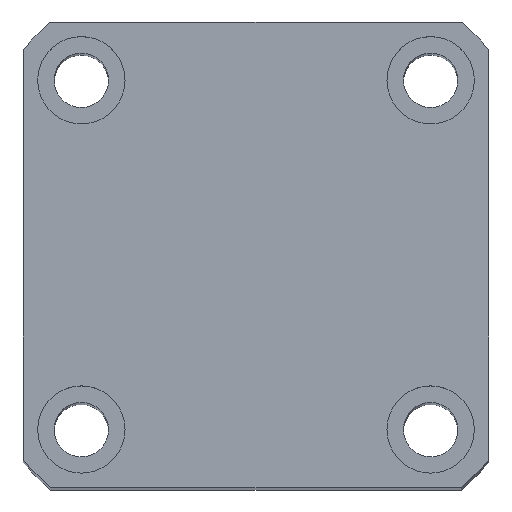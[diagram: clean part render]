
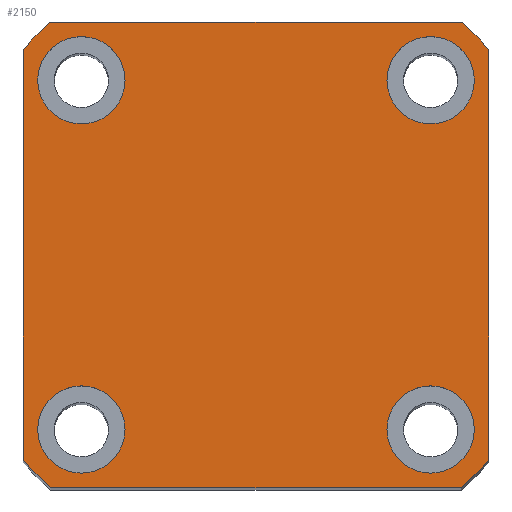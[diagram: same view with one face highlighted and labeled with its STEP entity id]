
A CAD part, top view. The second image highlights one B-rep face of the part: STEP entity #2150.
In plain terms, the highlighted planar face has unit normal (0, 0, 1) as drawn and (1, 0, 0) by its records, which use the part's own axes.
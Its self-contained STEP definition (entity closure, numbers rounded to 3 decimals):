
#141 = FACE_BOUND ( 'NONE', #7603, .T. ) ;
#166 = CARTESIAN_POINT ( 'NONE',  ( 135., -18., 22.5 ) ) ;
#235 = CARTESIAN_POINT ( 'NONE',  ( 135., -18., -18. ) ) ;
#321 = FACE_BOUND ( 'NONE', #2095, .T. ) ;
#368 = DIRECTION ( 'NONE',  ( 0., 0., -1. ) ) ;
#455 = EDGE_LOOP ( 'NONE', ( #1502, #932 ) ) ;
#492 = DIRECTION ( 'NONE',  ( 0., 0., -1. ) ) ;
#498 = DIRECTION ( 'NONE',  ( 1., 0., 0. ) ) ;
#501 = DIRECTION ( 'NONE',  ( 0., 0., -1. ) ) ;
#503 = CARTESIAN_POINT ( 'NONE',  ( 135., 0., 0. ) ) ;
#525 = ORIENTED_EDGE ( 'NONE', *, *, #6805, .F. ) ;
#533 = PLANE ( 'NONE',  #4924 ) ;
#605 = AXIS2_PLACEMENT_3D ( 'NONE', #2058, #2053, #2040 ) ;
#652 = VERTEX_POINT ( 'NONE', #166 ) ;
#658 = VERTEX_POINT ( 'NONE', #6543 ) ;
#694 = VERTEX_POINT ( 'NONE', #4660 ) ;
#704 = CIRCLE ( 'NONE', #6453, 4.5 ) ;
#738 = ORIENTED_EDGE ( 'NONE', *, *, #5721, .F. ) ;
#805 = CARTESIAN_POINT ( 'NONE',  ( 135., -21.166, -24. ) ) ;
#809 = ORIENTED_EDGE ( 'NONE', *, *, #4125, .T. ) ;
#839 = EDGE_CURVE ( 'NONE', #5489, #3019, #1200, .T. ) ;
#853 = DIRECTION ( 'NONE',  ( 0., 0., -1. ) ) ;
#886 = CARTESIAN_POINT ( 'NONE',  ( 135., 18., 18. ) ) ;
#931 = CARTESIAN_POINT ( 'NONE',  ( 135., -24., -21.166 ) ) ;
#932 = ORIENTED_EDGE ( 'NONE', *, *, #2497, .F. ) ;
#948 = EDGE_CURVE ( 'NONE', #2676, #694, #3311, .T. ) ;
#999 = CIRCLE ( 'NONE', #605, 4.5 ) ;
#1005 = CARTESIAN_POINT ( 'NONE',  ( 135., 24., 24. ) ) ;
#1048 = VERTEX_POINT ( 'NONE', #6081 ) ;
#1063 = CARTESIAN_POINT ( 'NONE',  ( 135., 18., 22.5 ) ) ;
#1106 = DIRECTION ( 'NONE',  ( 0., 0., -1. ) ) ;
#1132 = DIRECTION ( 'NONE',  ( 1., 0., 0. ) ) ;
#1155 = CARTESIAN_POINT ( 'NONE',  ( 135., 0., 0. ) ) ;
#1200 = LINE ( 'NONE', #6390, #4509 ) ;
#1407 = ORIENTED_EDGE ( 'NONE', *, *, #5332, .F. ) ;
#1433 = DIRECTION ( 'NONE',  ( 1., 0., 0. ) ) ;
#1462 = CIRCLE ( 'NONE', #4078, 4.5 ) ;
#1502 = ORIENTED_EDGE ( 'NONE', *, *, #7721, .F. ) ;
#1504 = DIRECTION ( 'NONE',  ( 0., 0., -1. ) ) ;
#1555 = LINE ( 'NONE', #1005, #7917 ) ;
#1669 = ORIENTED_EDGE ( 'NONE', *, *, #6776, .T. ) ;
#1773 = ORIENTED_EDGE ( 'NONE', *, *, #5281, .T. ) ;
#1963 = FACE_BOUND ( 'NONE', #455, .T. ) ;
#2040 = DIRECTION ( 'NONE',  ( 0., 0., -1. ) ) ;
#2053 = DIRECTION ( 'NONE',  ( 1., 0., 0. ) ) ;
#2058 = CARTESIAN_POINT ( 'NONE',  ( 135., -18., -18. ) ) ;
#2090 = ORIENTED_EDGE ( 'NONE', *, *, #4512, .T. ) ;
#2093 = CARTESIAN_POINT ( 'NONE',  ( 135., 24., -21.166 ) ) ;
#2095 = EDGE_LOOP ( 'NONE', ( #5826, #2860 ) ) ;
#2150 = ADVANCED_FACE ( 'NONE', ( #1963, #141, #3813, #321, #6513 ), #533, .T. ) ;
#2222 = CARTESIAN_POINT ( 'NONE',  ( 135., -18., -22.5 ) ) ;
#2262 = CARTESIAN_POINT ( 'NONE',  ( 135., 0., 0. ) ) ;
#2285 = VERTEX_POINT ( 'NONE', #805 ) ;
#2386 = AXIS2_PLACEMENT_3D ( 'NONE', #886, #5233, #1504 ) ;
#2497 = EDGE_CURVE ( 'NONE', #4791, #5658, #999, .T. ) ;
#2598 = DIRECTION ( 'NONE',  ( 1., 0., 0. ) ) ;
#2666 = AXIS2_PLACEMENT_3D ( 'NONE', #2877, #7200, #3505 ) ;
#2676 = VERTEX_POINT ( 'NONE', #5200 ) ;
#2789 = DIRECTION ( 'NONE',  ( 1., 0., 0. ) ) ;
#2860 = ORIENTED_EDGE ( 'NONE', *, *, #6238, .F. ) ;
#2877 = CARTESIAN_POINT ( 'NONE',  ( 135., -18., 18. ) ) ;
#2886 = DIRECTION ( 'NONE',  ( 0., 0., -1. ) ) ;
#3001 = VERTEX_POINT ( 'NONE', #1063 ) ;
#3019 = VERTEX_POINT ( 'NONE', #5987 ) ;
#3126 = CARTESIAN_POINT ( 'NONE',  ( 135., -18., -13.5 ) ) ;
#3311 = CIRCLE ( 'NONE', #4777, 32. ) ;
#3374 = AXIS2_PLACEMENT_3D ( 'NONE', #7898, #4228, #501 ) ;
#3435 = AXIS2_PLACEMENT_3D ( 'NONE', #6505, #2789, #7119 ) ;
#3448 = EDGE_LOOP ( 'NONE', ( #4459, #2090, #3615, #809, #1669, #7111, #4058, #1773 ) ) ;
#3505 = DIRECTION ( 'NONE',  ( 0., 0., -1. ) ) ;
#3615 = ORIENTED_EDGE ( 'NONE', *, *, #839, .T. ) ;
#3813 = FACE_BOUND ( 'NONE', #4815, .T. ) ;
#3896 = CIRCLE ( 'NONE', #2386, 4.5 ) ;
#4058 = ORIENTED_EDGE ( 'NONE', *, *, #6016, .T. ) ;
#4078 = AXIS2_PLACEMENT_3D ( 'NONE', #7772, #4085, #368 ) ;
#4085 = DIRECTION ( 'NONE',  ( 1., 0., 0. ) ) ;
#4123 = CARTESIAN_POINT ( 'NONE',  ( 135., 24., -24. ) ) ;
#4125 = EDGE_CURVE ( 'NONE', #3019, #1048, #4770, .T. ) ;
#4228 = DIRECTION ( 'NONE',  ( 1., 0., 0. ) ) ;
#4459 = ORIENTED_EDGE ( 'NONE', *, *, #6825, .T. ) ;
#4487 = DIRECTION ( 'NONE',  ( 1., 0., 0. ) ) ;
#4509 = VECTOR ( 'NONE', #6341, 1000. ) ;
#4512 = EDGE_CURVE ( 'NONE', #6094, #5489, #5077, .T. ) ;
#4557 = DIRECTION ( 'NONE',  ( 1., 0., 0. ) ) ;
#4558 = DIRECTION ( 'NONE',  ( 0., 0., -1. ) ) ;
#4596 = CARTESIAN_POINT ( 'NONE',  ( 135., 21.166, -24. ) ) ;
#4658 = VECTOR ( 'NONE', #5958, 1000. ) ;
#4660 = CARTESIAN_POINT ( 'NONE',  ( 135., -24., 21.166 ) ) ;
#4731 = DIRECTION ( 'NONE',  ( 0., -1., 0. ) ) ;
#4770 = CIRCLE ( 'NONE', #6906, 32. ) ;
#4777 = AXIS2_PLACEMENT_3D ( 'NONE', #6564, #4487, #4558 ) ;
#4791 = VERTEX_POINT ( 'NONE', #3126 ) ;
#4794 = AXIS2_PLACEMENT_3D ( 'NONE', #6293, #2598, #6919 ) ;
#4815 = EDGE_LOOP ( 'NONE', ( #6538, #1407 ) ) ;
#4924 = AXIS2_PLACEMENT_3D ( 'NONE', #503, #498, #492 ) ;
#4942 = CARTESIAN_POINT ( 'NONE',  ( 135., 18., -13.5 ) ) ;
#4964 = AXIS2_PLACEMENT_3D ( 'NONE', #235, #4557, #853 ) ;
#5077 = CIRCLE ( 'NONE', #6344, 32. ) ;
#5155 = CARTESIAN_POINT ( 'NONE',  ( 135., 18., -18. ) ) ;
#5200 = CARTESIAN_POINT ( 'NONE',  ( 135., -21.166, 24. ) ) ;
#5233 = DIRECTION ( 'NONE',  ( 1., 0., 0. ) ) ;
#5281 = EDGE_CURVE ( 'NONE', #6590, #2285, #5813, .T. ) ;
#5316 = CARTESIAN_POINT ( 'NONE',  ( 135., 18., -22.5 ) ) ;
#5332 = EDGE_CURVE ( 'NONE', #7676, #7856, #704, .T. ) ;
#5344 = LINE ( 'NONE', #7604, #6775 ) ;
#5361 = CARTESIAN_POINT ( 'NONE',  ( 135., -18., 13.5 ) ) ;
#5489 = VERTEX_POINT ( 'NONE', #2093 ) ;
#5658 = VERTEX_POINT ( 'NONE', #2222 ) ;
#5721 = EDGE_CURVE ( 'NONE', #6791, #652, #6091, .T. ) ;
#5754 = DIRECTION ( 'NONE',  ( 0., 0., -1. ) ) ;
#5757 = DIRECTION ( 'NONE',  ( 0., 0., -1. ) ) ;
#5813 = CIRCLE ( 'NONE', #4794, 32. ) ;
#5826 = ORIENTED_EDGE ( 'NONE', *, *, #6052, .F. ) ;
#5958 = DIRECTION ( 'NONE',  ( 0., 1., 0. ) ) ;
#5987 = CARTESIAN_POINT ( 'NONE',  ( 135., 24., 21.166 ) ) ;
#6016 = EDGE_CURVE ( 'NONE', #694, #6590, #5344, .T. ) ;
#6052 = EDGE_CURVE ( 'NONE', #658, #3001, #3896, .T. ) ;
#6081 = CARTESIAN_POINT ( 'NONE',  ( 135., 21.166, 24. ) ) ;
#6091 = CIRCLE ( 'NONE', #3374, 4.5 ) ;
#6094 = VERTEX_POINT ( 'NONE', #4596 ) ;
#6238 = EDGE_CURVE ( 'NONE', #3001, #658, #1462, .T. ) ;
#6293 = CARTESIAN_POINT ( 'NONE',  ( 135., 0., 0. ) ) ;
#6296 = LINE ( 'NONE', #4123, #4658 ) ;
#6341 = DIRECTION ( 'NONE',  ( 0., 0., 1. ) ) ;
#6344 = AXIS2_PLACEMENT_3D ( 'NONE', #2262, #6610, #2886 ) ;
#6390 = CARTESIAN_POINT ( 'NONE',  ( 135., 24., 24. ) ) ;
#6453 = AXIS2_PLACEMENT_3D ( 'NONE', #5155, #1433, #5757 ) ;
#6494 = CIRCLE ( 'NONE', #2666, 4.5 ) ;
#6505 = CARTESIAN_POINT ( 'NONE',  ( 135., 18., -18. ) ) ;
#6513 = FACE_OUTER_BOUND ( 'NONE', #3448, .T. ) ;
#6538 = ORIENTED_EDGE ( 'NONE', *, *, #7449, .F. ) ;
#6543 = CARTESIAN_POINT ( 'NONE',  ( 135., 18., 13.5 ) ) ;
#6564 = CARTESIAN_POINT ( 'NONE',  ( 135., 0., 0. ) ) ;
#6590 = VERTEX_POINT ( 'NONE', #931 ) ;
#6610 = DIRECTION ( 'NONE',  ( 1., 0., 0. ) ) ;
#6775 = VECTOR ( 'NONE', #5754, 1000. ) ;
#6776 = EDGE_CURVE ( 'NONE', #1048, #2676, #1555, .T. ) ;
#6791 = VERTEX_POINT ( 'NONE', #5361 ) ;
#6805 = EDGE_CURVE ( 'NONE', #652, #6791, #6494, .T. ) ;
#6825 = EDGE_CURVE ( 'NONE', #2285, #6094, #6296, .T. ) ;
#6906 = AXIS2_PLACEMENT_3D ( 'NONE', #1155, #1132, #1106 ) ;
#6919 = DIRECTION ( 'NONE',  ( 0., 0., -1. ) ) ;
#7111 = ORIENTED_EDGE ( 'NONE', *, *, #948, .T. ) ;
#7119 = DIRECTION ( 'NONE',  ( 0., 0., -1. ) ) ;
#7200 = DIRECTION ( 'NONE',  ( 1., 0., 0. ) ) ;
#7281 = CIRCLE ( 'NONE', #3435, 4.5 ) ;
#7375 = CIRCLE ( 'NONE', #4964, 4.5 ) ;
#7449 = EDGE_CURVE ( 'NONE', #7856, #7676, #7281, .T. ) ;
#7603 = EDGE_LOOP ( 'NONE', ( #738, #525 ) ) ;
#7604 = CARTESIAN_POINT ( 'NONE',  ( 135., -24., 24. ) ) ;
#7676 = VERTEX_POINT ( 'NONE', #4942 ) ;
#7721 = EDGE_CURVE ( 'NONE', #5658, #4791, #7375, .T. ) ;
#7772 = CARTESIAN_POINT ( 'NONE',  ( 135., 18., 18. ) ) ;
#7856 = VERTEX_POINT ( 'NONE', #5316 ) ;
#7898 = CARTESIAN_POINT ( 'NONE',  ( 135., -18., 18. ) ) ;
#7917 = VECTOR ( 'NONE', #4731, 1000. ) ;
